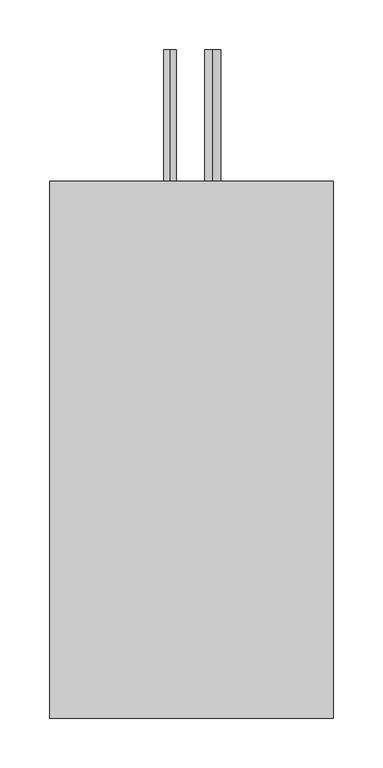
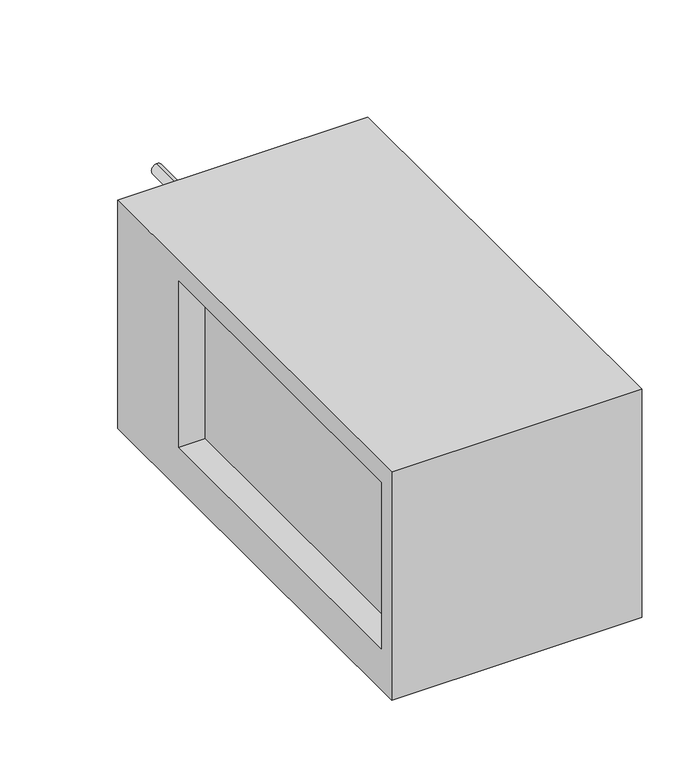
"""IFC4 building model written with IfcOpenShell, lengths in millimetres: proxy geometry, СВ_ВоздухоохладительФреоновый_КанальныйПрямоугольный_200-1000_SPC-F : SPC-F-400x200-L."""

import ifcopenshell
import ifcopenshell.guid

model = None  # the IFC model being written
_history = None  # IfcOwnerHistory: only IFC2X3 demands one
_inside = {}  # id of a spatial element -> (the spatial element, [elements in it])
_under = {}  # id of a project, library or spatial element -> (it, [spatial elements below it])
_declared = {}  # id of a project -> (the project, [libraries it declares])
_typed = {}  # id of a type object -> (the type object, [elements of that type])
_made_of = {}  # id of a material, layer set ... -> (it, [elements and type objects made of it])


def new_model(schema):
    """Start an empty IFC model of exactly this schema.

    Asked for "IFC4X3", IfcOpenShell would pick the latest addendum, in which some entities
    have other attributes; the version numbers below select the first issue.
    IFC2X3 requires an IfcOwnerHistory on every rooted entity: one is made here for all.
    """
    global model, _history
    if schema == "IFC4X3":
        model = ifcopenshell.file(schema_version=(4, 3, 0, 0))
    else:
        model = ifcopenshell.file(schema=schema)
    _inside.clear()
    _under.clear()
    _declared.clear()
    _typed.clear()
    _made_of.clear()
    _history = None
    if model.schema == "IFC2X3":
        org = make("IfcOrganization", Name="unknown")
        user = make(
            "IfcPersonAndOrganization",
            ThePerson=make("IfcPerson", FamilyName="unknown"),
            TheOrganization=org,
        )
        app = make(
            "IfcApplication",
            ApplicationDeveloper=org,
            Version="unknown",
            ApplicationFullName="unknown",
            ApplicationIdentifier="unknown",
        )
        _history = make(
            "IfcOwnerHistory",
            OwningUser=user,
            OwningApplication=app,
            ChangeAction="ADDED",
            CreationDate=0,
        )
    return model


def make(cls, **values):
    """One entity of the class cls with the attributes given. An attribute that is None is left unset."""
    return model.create_entity(
        cls, **{name: value for name, value in values.items() if value is not None}
    )


def rooted(cls, **values):
    """An entity with a GlobalId (a new one), such as an element, a storey or a relation."""
    return make(cls, GlobalId=ifcopenshell.guid.new(), OwnerHistory=_history, **values)


def si_unit(unit_type, name, prefix=None):
    """IfcSIUnit, for example si_unit("LENGTHUNIT", "METRE", prefix="MILLI")."""
    return make("IfcSIUnit", UnitType=unit_type, Prefix=prefix, Name=name)


def assignment(units):
    """IfcUnitAssignment: the units of a project."""
    return None if units is None else make("IfcUnitAssignment", Units=units)


def point(xyz):
    """IfcCartesianPoint."""
    return None if xyz is None else make("IfcCartesianPoint", Coordinates=xyz)


def direction(xyz):
    """IfcDirection."""
    return None if xyz is None else make("IfcDirection", DirectionRatios=xyz)


def frame(location, z_axis=None, x_axis=None):
    """IfcAxis2Placement3D, a coordinate frame: its origin and axes. An axis left out is left unset."""
    return make(
        "IfcAxis2Placement3D",
        Location=point(location),
        Axis=direction(z_axis),
        RefDirection=direction(x_axis),
    )


def frame_2d(location, x_axis=None):
    """IfcAxis2Placement2D, a coordinate frame in the plane: its origin and x axis."""
    return make(
        "IfcAxis2Placement2D", Location=point(location), RefDirection=direction(x_axis)
    )


def origin():
    """The frame at (0, 0, 0) with its axes left unset."""
    return frame((0.0, 0.0, 0.0))


def place(relative_to, where):
    """IfcLocalPlacement: puts the frame where relative to a parent placement (None: the world)."""
    return make(
        "IfcLocalPlacement", PlacementRelTo=relative_to, RelativePlacement=where
    )


def context(
    kind, dimensions, precision=None, world=None, true_north=None, identifier=None
):
    """IfcGeometricRepresentationContext, for example the 3D "Model" context."""
    return make(
        "IfcGeometricRepresentationContext",
        ContextIdentifier=identifier,
        ContextType=kind,
        CoordinateSpaceDimension=dimensions,
        Precision=precision,
        WorldCoordinateSystem=world,
        TrueNorth=true_north,
    )


def project(units=None, contexts=None):
    """IfcProject with its units and contexts."""
    return rooted(
        "IfcProject",
        Name="project",
        RepresentationContexts=contexts,
        UnitsInContext=assignment(units),
    )


def spatial(cls, under=None, at=None, **own):
    """A site, building, storey or space (cls), placed at a placement, below another one or the project."""
    s = rooted(cls, ObjectPlacement=at, **own)
    if under is not None:
        _under.setdefault(under.id(), (under, []))[1].append(s)
    return s


def polyline(points):
    """IfcPolyline through the points."""
    return make("IfcPolyline", Points=[point(p) for p in points])


def circle_curve(where, radius):
    """IfcCircle in the frame where."""
    return make("IfcCircle", Position=where, Radius=radius)


def trimmed(basis, trim1, trim2, sense, master):
    """IfcTrimmedCurve: the piece of a basis curve between two trims."""
    return make(
        "IfcTrimmedCurve",
        BasisCurve=basis,
        Trim1=trim1,
        Trim2=trim2,
        SenseAgreement=sense,
        MasterRepresentation=master,
    )


def segment(curve, same_sense, transition):
    """IfcCompositeCurveSegment."""
    return make(
        "IfcCompositeCurveSegment",
        Transition=transition,
        SameSense=same_sense,
        ParentCurve=curve,
    )


def composite_curve(segments, self_intersect=None):
    """IfcCompositeCurve: segments joined end to end."""
    return make("IfcCompositeCurve", Segments=segments, SelfIntersect=self_intersect)


def outline(outer, holes=None, kind="AREA"):
    """IfcArbitraryClosedProfileDef: a profile drawn as a closed curve; with holes, ...WithVoids."""
    if holes is None:
        return make("IfcArbitraryClosedProfileDef", ProfileType=kind, OuterCurve=outer)
    return make(
        "IfcArbitraryProfileDefWithVoids",
        ProfileType=kind,
        OuterCurve=outer,
        InnerCurves=holes,
    )


def extrude(swept, where, along, depth):
    """IfcExtrudedAreaSolid: the profile swept, set in the frame where, extruded along a direction by depth."""
    return make(
        "IfcExtrudedAreaSolid",
        SweptArea=swept,
        Position=where,
        ExtrudedDirection=direction(along),
        Depth=depth,
    )


def shape(context_of_items, identifier, shape_type, items):
    """IfcShapeRepresentation: the items that make up one representation, for example the "Body"."""
    return make(
        "IfcShapeRepresentation",
        ContextOfItems=context_of_items,
        RepresentationIdentifier=identifier,
        RepresentationType=shape_type,
        Items=items,
    )


def source(mapping_origin, context_of_items, identifier, shape_type, items):
    """IfcRepresentationMap: a shape defined once, which mapped items show again and again."""
    return make(
        "IfcRepresentationMap",
        MappingOrigin=mapping_origin,
        MappedRepresentation=shape(context_of_items, identifier, shape_type, items),
    )


def transform(
    local_origin,
    x_axis=None,
    y_axis=None,
    z_axis=None,
    scale=None,
    scale2=None,
    scale3=None,
    uniform=True,
):
    """IfcCartesianTransformationOperator3D, or its non-uniform kind. x_axis, y_axis, z_axis: its Axis1, 2, 3."""
    if uniform:
        return make(
            "IfcCartesianTransformationOperator3D",
            Axis1=direction(x_axis),
            Axis2=direction(y_axis),
            LocalOrigin=point(local_origin),
            Scale=scale,
            Axis3=direction(z_axis),
        )
    return make(
        "IfcCartesianTransformationOperator3DnonUniform",
        Axis1=direction(x_axis),
        Axis2=direction(y_axis),
        LocalOrigin=point(local_origin),
        Scale=scale,
        Axis3=direction(z_axis),
        Scale2=scale2,
        Scale3=scale3,
    )


def mapped(mapping_source, mapping_target):
    """IfcMappedItem: shows the shape of a source again, moved by a transform."""
    return make(
        "IfcMappedItem", MappingSource=mapping_source, MappingTarget=mapping_target
    )


def made_of(thing, what):
    """Note that an element or type object is made of a material, layer set ...; save() writes the relation."""
    if what is not None:
        _made_of.setdefault(what.id(), (what, []))[1].append(thing)
    return thing


def element(
    cls,
    number,
    at=None,
    inside=None,
    cuts=None,
    type_object=None,
    material=None,
    context=None,
    identifier="Body",
    shape_type=None,
    held_by="IfcProductDefinitionShape",
    body=None,
    shapes=None,
    **own,
):
    """One element of the class cls, such as IfcWall. Its Tag is "e" and its number.

    at: its placement. inside: the storey or other place that contains it. cuts: it is an
    opening in that element (IfcRelVoidsElement). A single representation is given by context,
    identifier, shape_type and body (its items); several are given by shapes. held_by: the class
    of the entity that holds the representations. save() writes the other relations.
    """
    e = rooted(cls, Tag="e%d" % number, ObjectPlacement=at, **own)
    if body is not None:
        shapes = [shape(context, identifier, shape_type, body)]
    if shapes is not None:
        e.Representation = make(held_by, Representations=shapes)
    if inside is not None:
        _inside.setdefault(inside.id(), (inside, []))[1].append(e)
    if cuts is not None:
        rooted(
            "IfcRelVoidsElement", RelatingBuildingElement=cuts, RelatedOpeningElement=e
        )
    if type_object is not None:
        _typed.setdefault(type_object.id(), (type_object, []))[1].append(e)
    return made_of(e, material)


def aggregate(whole, parts):
    """IfcRelAggregates: a whole, such as a stair, and the parts it consists of."""
    return rooted("IfcRelAggregates", RelatingObject=whole, RelatedObjects=parts)


def save(model, path):
    """Write the relations noted so far, then the file.

    IfcRelAggregates (storeys below a building ...), IfcRelContainedInSpatialStructure (elements
    in a storey), IfcRelDefinesByType, IfcRelAssociatesMaterial and IfcRelDeclares: one each for
    every whole, place, type object, material and project.
    """
    for whole, parts in _under.values():
        aggregate(whole, parts)
    for where, things in _inside.values():
        rooted(
            "IfcRelContainedInSpatialStructure",
            RelatedElements=things,
            RelatingStructure=where,
        )
    for kind, things in _typed.values():
        rooted("IfcRelDefinesByType", RelatedObjects=things, RelatingType=kind)
    for what, things in _made_of.values():
        rooted("IfcRelAssociatesMaterial", RelatedObjects=things, RelatingMaterial=what)
    for by, libraries in _declared.values():
        rooted("IfcRelDeclares", RelatingContext=by, RelatedDefinitions=libraries)
    model.write(path)


def mechanical_equipment_ca928097(model_context):
    return source(origin(), model_context, "Body", "SweptSolid", [
        extrude(outline(polyline([(-220.0, -150.0), (-220.0, 125.0), (320.0, 125.0), (320.0, -150.0), (-220.0, -150.0)]), holes=[polyline([(-200.0, 100.0), (-200.0, -100.0), (200.0, -100.0), (200.0, 100.0), (-200.0, 100.0)])]), frame((-142.5, 0.0, 0.0), z_axis=(1.0, 0.0, 0.0), x_axis=(0.0, 1.0, 0.0)), (0.0, 0.0, 1.0), 285.0),
        extrude(outline(composite_curve([segment(trimmed(circle_curve(frame_2d((-50.0, 21.5)), 7.95), [point((-57.95, 21.5))], [point((-42.05, 21.5))], False, "CARTESIAN"), True, "CONTINUOUS"), segment(trimmed(circle_curve(frame_2d((-50.0, 21.5)), 7.95), [point((-42.05, 21.5))], [point((-57.95, 21.5))], False, "CARTESIAN"), True, "CONTINUOUS")], self_intersect=False)), frame((0.0, 320.0, 0.0), z_axis=(0.0, 1.0, 0.0), x_axis=(0.0, 0.0, 1.0)), (0.0, 0.0, 1.0), 132.0),
        extrude(outline(composite_curve([segment(trimmed(circle_curve(frame_2d((40.0, -21.5)), 6.35), [point((33.65, -21.5))], [point((46.35, -21.5))], False, "CARTESIAN"), True, "CONTINUOUS"), segment(trimmed(circle_curve(frame_2d((40.0, -21.5)), 6.35), [point((46.35, -21.5))], [point((33.65, -21.5))], False, "CARTESIAN"), True, "CONTINUOUS")], self_intersect=False)), frame((0.0, 320.0, 0.0), z_axis=(0.0, 1.0, 0.0), x_axis=(0.0, 0.0, 1.0)), (0.0, 0.0, 1.0), 132.0),
        extrude(outline(composite_curve([segment(trimmed(circle_curve(frame_2d((0.0, 280.0)), 11.0), [point((-11.0, 280.0))], [point((11.0, 280.0))], False, "CARTESIAN"), True, "CONTINUOUS"), segment(trimmed(circle_curve(frame_2d((0.0, 280.0)), 11.0), [point((11.0, 280.0))], [point((-11.0, 280.0))], False, "CARTESIAN"), True, "CONTINUOUS")], self_intersect=False)), frame((0.0, 0.0, -170.0), z_axis=(0.0, 0.0, 1.0), x_axis=(1.0, 0.0, 0.0)), (0.0, 0.0, 1.0), 20.0),
        extrude(outline(polyline([(112.5, 200.0), (112.5, -200.0), (-112.5, -200.0), (-112.5, 200.0), (112.5, 200.0)])), frame((0.0, 0.0, -100.0), z_axis=(0.0, 0.0, 1.0), x_axis=(1.0, 0.0, 0.0)), (0.0, 0.0, 1.0), 200.0),
    ])


if __name__ == "__main__":
    model = new_model("IFC4")
    model_context = context("Model", 3, world=origin())
    ifc_project = project(units=[si_unit("LENGTHUNIT", "METRE", prefix="MILLI")], contexts=[model_context])
    site = spatial("IfcSite", under=ifc_project)
    building = spatial("IfcBuilding", under=site)
    placement = place(None, origin())
    mechanical_equipment_shape = mechanical_equipment_ca928097(model_context)
    element("IfcBuildingElementProxy", 1, Name="СВ_ВоздухоохладительФреоновый_КанальныйПрямоугольный_200-1000_SPC-F : SPC-F-400x200-L", ObjectType="СВ_ВоздухоохладительФреоновый_КанальныйПрямоугольный_200-1000_SPC-F : SPC-F-400x200-L", at=placement, inside=building, context=model_context, shape_type="MappedRepresentation", body=[
        mapped(mechanical_equipment_shape, transform((0.0, 0.0, 0.0), x_axis=(1.0, 0.0, 0.0), y_axis=(0.0, 1.0, 0.0), z_axis=(0.0, 0.0, 1.0))),
    ])
    save(model, "model.ifc")
